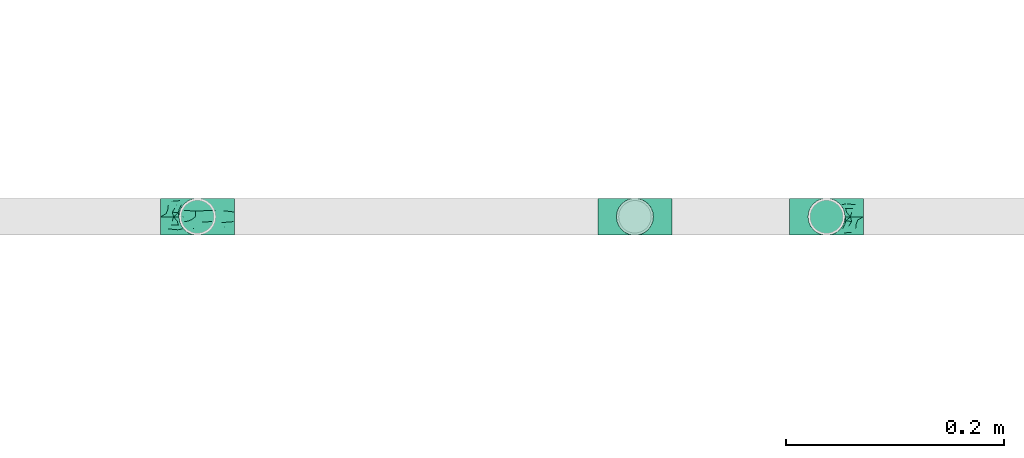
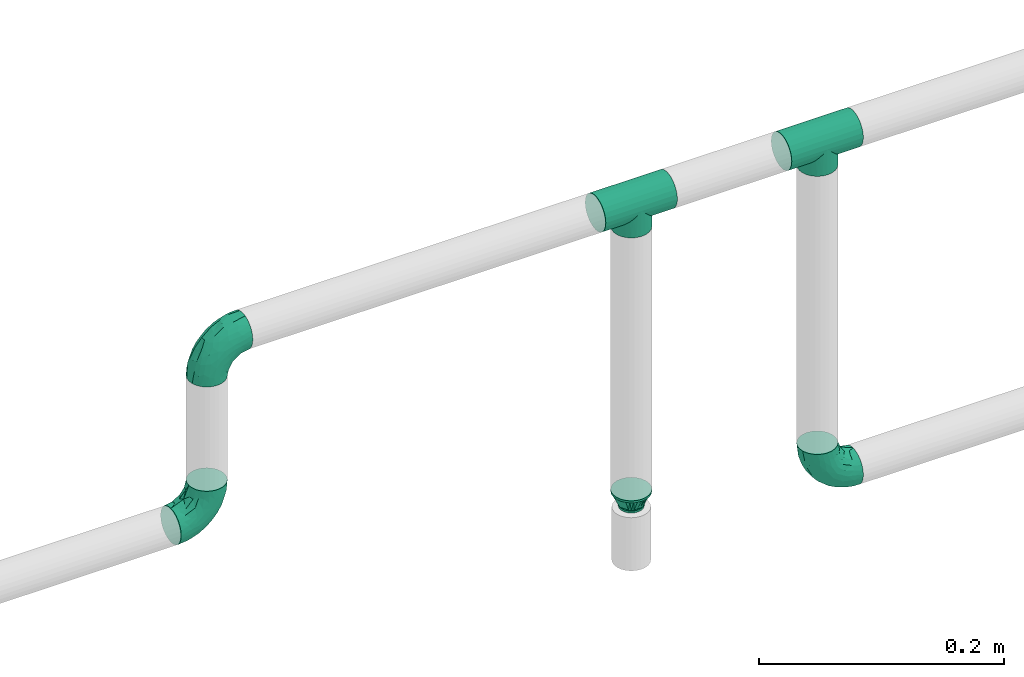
# One storey, part 25 of 45: 6 flow fittings.
"""IFC2X3 building model written with IfcOpenShell, lengths in millimetres."""

from ifc_helpers import new_model, entity, si_unit, converted_unit, derived_unit, direction, frame, origin_with_axes, place, context, subcontext, project, spatial, open_shell, surface_model, source, transform, mapped, type_object, element, save


model = new_model("IFC2X3")

# Units and contexts
model_context = context("Model", 3, precision=0.01, world=frame((0.0, 4.29681676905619e-09, 0.0)), true_north=direction((4.01073788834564e-13, 1.0)))
plan_context = context("Plan", 3, precision=0.01, world=frame((0.0, 4.29681676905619e-09, 0.0)), true_north=direction((4.01073788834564e-13, 1.0)))
body_context = subcontext(model_context, "Body", "Model", "MODEL_VIEW")
ifc_project = project(units=[converted_unit("PLANEANGLEUNIT", "DEGREE", entity("IfcPositiveLengthMeasure", 0.0174532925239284), si_unit("PLANEANGLEUNIT", "RADIAN"), dimensions=[0, 0, 0, 0, 0, 0, 0]), si_unit("AREAUNIT", "SQUARE_METRE"), si_unit("LENGTHUNIT", "METRE", prefix="MILLI"), si_unit("MASSUNIT", "GRAM", prefix="KILO"), si_unit("POWERUNIT", "WATT"), si_unit("PRESSUREUNIT", "PASCAL", prefix="KILO"), si_unit("FORCEUNIT", "NEWTON", prefix="KILO"), si_unit("ELECTRICVOLTAGEUNIT", "VOLT"), si_unit("ELECTRICCURRENTUNIT", "AMPERE"), si_unit("THERMODYNAMICTEMPERATUREUNIT", "DEGREE_CELSIUS"), si_unit("TIMEUNIT", "SECOND"), si_unit("VOLUMEUNIT", "CUBIC_METRE"), derived_unit("LINEARVELOCITYUNIT", [(si_unit("LENGTHUNIT", "METRE"), 1), (si_unit("TIMEUNIT", "SECOND"), -1)]), derived_unit("VOLUMETRICFLOWRATEUNIT", [(si_unit("VOLUMEUNIT", "CUBIC_METRE"), 1), (si_unit("TIMEUNIT", "SECOND"), -1)]), derived_unit("THERMALTRANSMITTANCEUNIT", [(si_unit("POWERUNIT", "WATT"), 1), (si_unit("THERMODYNAMICTEMPERATUREUNIT", "KELVIN"), -1), (si_unit("AREAUNIT", "SQUARE_METRE"), -1)]), derived_unit("SOUNDPRESSUREUNIT", [(si_unit("PRESSUREUNIT", "PASCAL"), 1)])], contexts=[model_context, plan_context])

# Site, building, storey
site_placement = place(None, frame((0.0, -4.29681676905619e-09, 0.0), z_axis=(0.0, 0.0, 1.0), x_axis=(1.0, 0.0, 0.0)))
site = spatial("IfcSite", under=ifc_project, at=site_placement, CompositionType="ELEMENT")
building_placement = place(site_placement, frame((0.0, 4.29681676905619e-09, 0.0), z_axis=(0.0, 0.0, 1.0), x_axis=(1.0, 0.0, 0.0)))
building = spatial("IfcBuilding", under=site, at=building_placement, Name="mc-building", CompositionType="ELEMENT")
storey_placement = place(building_placement, frame((0.0, 0.0, 210200.0), z_axis=(0.0, 0.0, 1.0), x_axis=(1.0, 0.0, 0.0)))
storey = spatial("IfcBuildingStorey", under=building, at=storey_placement, Name="Nivå F - 0,7 m", CompositionType="ELEMENT", Elevation=210200.0)

# Flow fittings
pipe_fitting_type_1 = type_object("IfcPipeFittingType", Name="magi_pipe_fe_elbow_short_001", PredefinedType="BEND")
shared_shape_1 = source(origin_with_axes(), body_context, "Body", "SurfaceModel", [
    surface_model("IfcShellBasedSurfaceModel", [(-33.8, -11.9501, -11.9501), (-33.8, -14.63583, -8.45), (-33.8, -8.45, -14.63583), (-33.8, 0.0, -16.9), (-33.8, -4.37404, -16.32415), (-33.8, -16.32415, -4.37404), (-33.8, -16.9, 0.0), (-33.8, 11.9501, 11.9501), (-33.8, 14.63583, 8.45), (-33.8, 8.45, 14.63583), (-33.8, -11.9501, 11.9501), (-33.8, -8.45, 14.63583), (-33.8, -14.63583, 8.45), (-33.8, -16.32415, 4.37404), (-33.8, -4.37404, 16.32415), (-33.8, 0.0, 16.9), (-33.8, 16.9, 0.0), (-33.8, 16.32415, -4.37404), (-33.8, 16.32415, 4.37404), (-33.8, 4.37404, -16.32415), (-33.8, 8.45, -14.63583), (-33.8, 14.63583, -8.45), (-33.8, 11.9501, -11.9501), (-33.8, 4.37404, 16.32415), (-4.37404, 33.8, -16.32415), (16.9, 33.8, 0.0), (0.0, 33.8, -16.9), (-16.32415, 33.8, -4.37404), (-8.45, 33.8, -14.63583), (-14.63583, 33.8, -8.45), (-11.9501, 33.8, -11.9501), (16.32415, 33.8, 4.37404), (8.45, 33.8, -14.63583), (14.63583, 33.8, -8.45), (11.9501, 33.8, -11.9501), (4.37404, 33.8, -16.32415), (16.32415, 33.8, -4.37404), (-16.32415, 33.8, 4.37404), (-4.37404, 33.8, 16.32415), (-14.63583, 33.8, 8.45), (-8.45, 33.8, 14.63583), (-11.9501, 33.8, 11.9501), (14.63583, 33.8, 8.45), (8.45, 33.8, 14.63583), (11.9501, 33.8, 11.9501), (0.0, 33.8, 16.9), (4.37404, 33.8, 16.32415), (-16.9, 33.8, 0.0), (-24.79389, -13.12945, 9.48721), (-22.19287, -9.75018, 12.59315), (-24.09897, -14.97035, 0.0), (-14.93934, -10.76256, 8.5297), (-22.46095, -14.75051, 5.27077), (14.75051, 22.46094, 5.27077), (11.9251, 13.23888, 4.33236), (13.04069, 14.39795, 0.0), (7.71387, 13.68847, 11.55891), (9.75018, 22.19287, 12.59315), (4.10169, 13.0571, 14.04018), (-24.84007, -6.39063, 15.2048), (-25.81779, -2.23879, 16.61097), (-23.66549, 2.59054, 16.87119), (-26.50418, 14.06512, 11.08152), (-24.21253, 17.66365, 7.72657), (-29.58514, 15.86957, 7.00283), (-6.17382, -7.5455, 0.0), (-13.23888, -11.9251, 4.33236), (-14.39795, -13.04069, 0.0), (-17.81434, 18.87373, 11.97104), (-6.30846, 29.15138, 15.82987), (-2.31622, 25.28002, 16.85849), (-29.23923, 10.23435, 13.77053), (-1.45439, -2.85688, 7.61475), (-0.28326, 0.34872, 10.09509), (-5.74484, -4.04709, 10.4122), (-4.41137, 11.31918, 16.59407), (-8.39727, 3.10034, 15.7812), (-1.72649, 9.1306, 15.53089), (-17.39909, 24.75344, 7.64977), (-26.19233, 20.0512, 0.0), (-28.14518, 17.29657, 4.25857), (-26.05147, 6.6281, 15.96447), (-5.87354, 16.61944, 16.86968), (-12.51807, 12.51807, 16.48937), (-10.06312, 7.38516, 16.81295), (-3.01882, 3.01882, 13.81718), (-13.0571, -4.10169, 14.04018), (-16.82553, -0.15166, 16.38038), (10.76256, 14.93934, 8.5297), (13.12945, 24.79389, 9.48721), (6.39063, 24.84007, 15.2048), (2.23879, 25.81779, 16.61097), (-13.68847, -7.71387, 11.55891), (14.97035, 24.09897, 0.0), (-7.30894, 22.89991, 16.09489), (-10.67958, 26.17414, 14.008), (-12.78295, 18.26924, 15.06066), (-13.88562, 22.45231, 12.93244), (-18.04944, 15.16501, 14.04434), (-23.11658, 20.08178, 4.02986), (-21.84989, 21.84989, 0.0), (-18.55817, 25.48277, 3.93065), (-13.95142, 26.94732, 11.03289), (-18.57098, 7.23906, 16.59756), (-16.58335, 4.14122, 16.89279), (-17.96666, 11.46709, 15.63151), (-9.84453, 17.54304, 16.18938), (0.15166, 16.82553, 16.38038), (-23.27207, 11.47201, 14.23154), (3.84842, 5.86994, 10.70473), (-8.0212, -7.54413, 7.93275), (1.00345, -2.19508, 4.57414), (5.13203, 3.01004, 5.90201), (5.24161, 1.7543, 2.53265), (8.70457, 7.04947, 3.99182), (-20.0512, 26.19233, 0.0), (8.4852, 8.76699, 7.09296), (-4.55488, -6.72064, 4.90681), (2.05031, -2.05031, 0.0), (7.5455, 6.17382, 0.0), (-26.75399, 2.1369, -16.845), (-14.61995, 24.73803, -11.27736), (-28.45274, -13.45335, -9.81895), (-26.00469, 6.63555, -15.96645), (-23.06726, 20.04573, -4.26202), (-13.80647, -4.26506, -14.17873), (-14.67501, -0.21081, -16.07388), (-6.7902, -0.2828, -13.8478), (-24.53586, 11.08096, -14.13417), (-26.72048, 14.00837, -11.05776), (10.0967, 24.44989, -12.75976), (5.83237, 21.40218, -15.03047), (6.66249, 28.54238, -15.38093), (-20.38182, 15.48705, -12.74596), (12.53268, 21.23441, -9.15363), (12.54494, 15.67504, -5.54878), (9.7522, 12.89279, -8.66343), (-15.65186, 19.64213, -13.01327), (-12.03528, 20.66498, -14.67665), (-15.61907, 15.61906, -14.83879), (-25.56551, -15.26206, 0.0), (-24.65452, -15.12934, -5.50955), (13.45335, 28.45274, -9.81895), (15.12934, 24.65452, -5.50955), (-7.35442, -8.31014, -5.65563), (-15.67504, -12.54494, -5.54878), (-24.44989, -10.0967, -12.75976), (0.16522, 0.41303, -9.71728), (-5.70658, -5.33066, -8.89288), (-5.13869, -2.37198, -11.53565), (-21.23441, -12.53268, -9.15363), (0.71146, 7.93863, -14.09382), (0.21081, 14.67501, -16.07388), (3.49291, 14.42772, -14.76381), (-24.89911, -2.13088, -16.591), (-28.54238, -6.66249, -15.38093), (-18.44386, -7.71663, -13.26957), (2.13088, 24.89911, -16.591), (-28.64342, 17.44413, -2.89318), (1.70017, -1.28722, -5.09504), (-16.57067, 26.81947, -7.36596), (-17.69055, 27.4263, -3.76405), (-12.89279, -9.7522, -8.66343), (-5.96611, 5.96611, -15.95814), (-20.53709, 20.09345, -8.28985), (-2.1369, 26.75399, -16.845), (-6.89872, 24.58781, -16.02578), (-10.60739, 26.53157, -13.98044), (-21.40218, -5.83237, -15.03047), (2.93192, 5.89627, -11.55917), (6.89393, 12.61842, -11.82233), (5.58056, 5.95325, -8.79455), (-3.99512, 18.61798, -16.89635), (8.31014, 7.35442, -5.65563), (-9.1383, 9.86148, -16.89041), (-9.99983, 16.02119, -16.39699), (-16.68576, 9.78031, -16.34199), (-27.01915, 16.61158, -7.12979), (15.26206, 25.56551, 0.0), (-18.61798, 3.99512, -16.89635), (-19.37495, 27.82495, 0.0), (-12.61842, -6.89393, -11.82233), (-18.84705, 19.14018, -10.96545)], [open_shell([[[0, 1, 2]], [[3, 4, 2]], [[5, 6, 1]], [[7, 8, 9]], [[10, 11, 12]], [[13, 12, 11]], [[14, 15, 11]], [[16, 17, 18]], [[3, 6, 19]], [[20, 19, 17]], [[20, 17, 21]], [[22, 20, 21]], [[17, 19, 6]], [[2, 1, 6]], [[2, 6, 3]], [[6, 18, 17]], [[23, 18, 6]], [[8, 18, 23]], [[8, 23, 9]], [[13, 23, 6]], [[23, 13, 11]], [[11, 15, 23]], [[24, 25, 26]], [[27, 24, 28]], [[29, 27, 28]], [[29, 28, 30]], [[31, 25, 24]], [[32, 33, 34]], [[32, 35, 26]], [[33, 25, 36]], [[33, 32, 26]], [[25, 33, 26]], [[24, 27, 37]], [[31, 24, 37]], [[38, 37, 39]], [[40, 38, 39]], [[40, 39, 41]], [[31, 37, 38]], [[42, 43, 44]], [[43, 42, 31]], [[43, 45, 46]], [[43, 31, 38]], [[38, 45, 43]], [[37, 27, 47]], [[10, 48, 49]], [[13, 6, 50]], [[51, 48, 52]], [[53, 54, 55]], [[48, 10, 12]], [[13, 52, 12]], [[56, 57, 58]], [[49, 11, 10]], [[49, 59, 11]], [[15, 60, 61]], [[62, 63, 64]], [[65, 66, 67]], [[57, 44, 43]], [[62, 68, 63]], [[38, 69, 70]], [[9, 71, 7]], [[14, 60, 15]], [[72, 73, 74]], [[75, 76, 77]], [[7, 62, 8]], [[39, 37, 78]], [[79, 16, 80]], [[64, 18, 8]], [[15, 61, 23]], [[23, 81, 9]], [[82, 83, 84]], [[74, 85, 86]], [[59, 86, 87]], [[88, 89, 57]], [[90, 43, 46]], [[42, 53, 31]], [[46, 45, 91]], [[54, 53, 88]], [[42, 89, 53]], [[92, 86, 49]], [[89, 42, 44]], [[11, 59, 14]], [[53, 55, 93]], [[93, 31, 53]], [[66, 52, 67]], [[94, 82, 70]], [[95, 96, 94]], [[97, 98, 96]], [[79, 99, 100]], [[40, 41, 95]], [[101, 100, 99]], [[68, 78, 63]], [[38, 40, 69]], [[16, 18, 80]], [[95, 94, 69]], [[78, 101, 99]], [[41, 102, 95]], [[70, 45, 38]], [[97, 95, 102]], [[13, 50, 52]], [[90, 57, 43]], [[57, 90, 58]], [[81, 23, 61]], [[103, 104, 84]], [[105, 81, 103]], [[41, 39, 102]], [[106, 96, 83]], [[94, 106, 82]], [[91, 70, 107]], [[71, 62, 7]], [[62, 108, 98]], [[86, 59, 49]], [[67, 52, 50]], [[60, 59, 87]], [[92, 49, 51]], [[86, 85, 76]], [[91, 90, 46]], [[25, 31, 93]], [[107, 77, 58]], [[107, 58, 90]], [[58, 85, 109]], [[110, 74, 92]], [[72, 74, 110]], [[66, 51, 52]], [[72, 111, 112]], [[113, 114, 112]], [[56, 88, 57]], [[52, 48, 12]], [[49, 48, 51]], [[57, 89, 44]], [[53, 89, 88]], [[103, 81, 61]], [[71, 81, 108]], [[18, 64, 80]], [[63, 78, 99]], [[47, 115, 101]], [[101, 115, 100]], [[39, 78, 102]], [[68, 102, 78]], [[97, 96, 95]], [[105, 98, 108]], [[103, 84, 83]], [[107, 70, 82]], [[76, 84, 87]], [[82, 84, 75]], [[70, 91, 45]], [[90, 91, 107]], [[59, 60, 14]], [[61, 60, 87]], [[73, 85, 74]], [[109, 112, 116]], [[103, 61, 104]], [[105, 103, 83]], [[96, 105, 83]], [[81, 105, 108]], [[96, 98, 105]], [[62, 98, 68]], [[61, 87, 104]], [[87, 84, 104]], [[86, 76, 87]], [[77, 76, 85]], [[58, 77, 85]], [[75, 77, 107]], [[82, 75, 107]], [[76, 75, 84]], [[81, 71, 9]], [[62, 71, 108]], [[95, 69, 40]], [[70, 69, 94]], [[62, 64, 8]], [[80, 63, 99]], [[63, 80, 64]], [[80, 99, 79]], [[66, 65, 117]], [[110, 66, 117]], [[112, 114, 116]], [[118, 117, 65]], [[110, 92, 51]], [[112, 111, 113]], [[119, 55, 54]], [[74, 86, 92]], [[58, 109, 56]], [[116, 56, 109]], [[66, 110, 51]], [[72, 110, 117]], [[111, 72, 117]], [[73, 112, 109]], [[117, 118, 111]], [[113, 111, 118]], [[118, 119, 113]], [[114, 119, 54]], [[119, 114, 113]], [[116, 54, 88]], [[54, 116, 114]], [[116, 88, 56]], [[112, 73, 72]], [[85, 73, 109]], [[78, 37, 101]], [[47, 101, 37]], [[102, 68, 97]], [[97, 68, 98]], [[82, 106, 83]], [[94, 96, 106]], [[19, 120, 3]], [[29, 30, 121]], [[0, 122, 1]], [[20, 123, 19]], [[100, 124, 79]], [[125, 126, 127]], [[128, 22, 129]], [[130, 131, 132]], [[128, 129, 133]], [[134, 135, 136]], [[137, 138, 139]], [[128, 20, 22]], [[67, 140, 141]], [[134, 142, 143]], [[141, 5, 1]], [[144, 65, 145]], [[146, 0, 2]], [[147, 148, 149]], [[145, 141, 150]], [[151, 152, 153]], [[154, 4, 3]], [[2, 155, 146]], [[150, 146, 156]], [[155, 2, 4]], [[143, 135, 134]], [[35, 157, 26]], [[16, 79, 158]], [[148, 159, 144]], [[160, 161, 27]], [[145, 162, 144]], [[163, 152, 151]], [[27, 29, 160]], [[121, 164, 160]], [[32, 34, 130]], [[26, 165, 24]], [[24, 165, 166]], [[142, 34, 33]], [[30, 28, 167]], [[124, 161, 164]], [[157, 35, 132]], [[155, 154, 168]], [[123, 20, 128]], [[169, 170, 171]], [[172, 157, 152]], [[24, 166, 28]], [[132, 35, 32]], [[142, 130, 34]], [[168, 154, 126]], [[136, 135, 173]], [[133, 137, 139]], [[22, 21, 129]], [[170, 131, 130]], [[33, 36, 143]], [[172, 174, 175]], [[176, 123, 128]], [[158, 177, 17]], [[135, 55, 119]], [[167, 28, 166]], [[175, 166, 172]], [[137, 167, 138]], [[122, 141, 1]], [[140, 6, 5]], [[36, 25, 178]], [[170, 130, 134]], [[152, 157, 131]], [[165, 157, 172]], [[153, 170, 151]], [[152, 163, 174]], [[168, 125, 156]], [[122, 146, 150]], [[120, 154, 3]], [[179, 174, 126]], [[179, 126, 154]], [[126, 163, 127]], [[162, 145, 150]], [[140, 5, 141]], [[36, 178, 143]], [[55, 143, 178]], [[177, 129, 21]], [[128, 133, 139]], [[176, 128, 139]], [[120, 123, 179]], [[121, 160, 29]], [[161, 100, 180]], [[166, 175, 138]], [[121, 30, 167]], [[161, 47, 27]], [[79, 124, 158]], [[124, 164, 177]], [[161, 124, 100]], [[136, 171, 170]], [[127, 163, 151]], [[147, 171, 159]], [[148, 144, 162]], [[127, 151, 169]], [[127, 181, 125]], [[129, 177, 164]], [[21, 17, 177]], [[159, 65, 144]], [[67, 141, 145]], [[143, 55, 135]], [[135, 119, 173]], [[123, 120, 19]], [[154, 120, 179]], [[157, 165, 26]], [[166, 165, 172]], [[172, 152, 174]], [[176, 139, 175]], [[126, 174, 163]], [[176, 174, 179]], [[174, 176, 175]], [[123, 176, 179]], [[150, 181, 162]], [[127, 149, 181]], [[181, 148, 162]], [[159, 148, 147]], [[171, 136, 173]], [[170, 134, 136]], [[159, 171, 173]], [[171, 147, 169]], [[169, 147, 149]], [[151, 170, 169]], [[164, 182, 129]], [[182, 121, 137]], [[181, 149, 148]], [[169, 149, 127]], [[182, 137, 133]], [[167, 137, 121]], [[166, 138, 167]], [[175, 139, 138]], [[129, 182, 133]], [[121, 182, 164]], [[161, 160, 164]], [[47, 161, 180]], [[177, 158, 124]], [[16, 158, 17]], [[130, 132, 32]], [[157, 132, 131]], [[143, 142, 33]], [[130, 142, 134]], [[154, 155, 4]], [[146, 155, 168]], [[146, 122, 0]], [[141, 122, 150]], [[152, 131, 153]], [[159, 119, 118]], [[67, 145, 65]], [[170, 153, 131]], [[119, 159, 173]], [[159, 118, 65]], [[156, 125, 181]], [[126, 125, 168]], [[150, 156, 181]], [[168, 156, 146]]])]),
])
for number, where, z_axis, x_axis, name in (
    (1, (332126.35522, 466128.25463, 3145.0), (0.0, -1.0, 0.0), (1.0, 0.0, 0.0), "magi_pipe_fe_elbow_short_001"),
    (2, (332126.35522, 466128.25463, 3316.68979999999), (0.0, -1.0, 0.0), (-1.0, 0.0, 0.0), "magi_pipe_fe_elbow_short_001"),
    (3, (332702.59811, 466128.25463, 2980.04545999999), (0.0, 1.0, 0.0), (-1.0, 0.0, 0.0), "magi_pipe_fe_elbow_short_001"),
):
    element("IfcFlowFitting", number, at=place(storey_placement, frame(where, z_axis=z_axis, x_axis=x_axis)), inside=storey, type_object=pipe_fitting_type_1, Name=name, context=body_context, shape_type="MappedRepresentation", body=[
        mapped(shared_shape_1, transform((0.0, 0.0, 0.0), scale=1.0)),
    ])
pipe_fitting_type_2 = type_object("IfcPipeFittingType", Name="magi_pipe_fe_tee_centric_90_001", PredefinedType="JUNCTION")
shared_shape_2 = source(origin_with_axes(), body_context, "Body", "SurfaceModel", [
    surface_model("IfcShellBasedSurfaceModel", [(-33.8, 4.37404, -16.32415), (-33.8, 0.0, -16.9), (-33.8, 16.32415, -4.37404), (-33.8, 8.45, -14.63583), (-33.8, 11.9501, -11.9501), (-33.8, 14.63583, -8.45), (-33.8, -16.9, 0.0), (-33.8, -11.9501, -11.9501), (-33.8, -14.63583, -8.45), (-33.8, -8.45, -14.63583), (-33.8, -4.37404, -16.32415), (-33.8, -16.32415, -4.37404), (-33.8, 14.63583, 8.45), (-33.8, 16.32415, 4.37404), (-33.8, -8.45, 14.63583), (-33.8, 8.45, 14.63583), (-33.8, 11.9501, 11.9501), (-33.8, 4.37404, 16.32415), (-33.8, 0.0, 16.9), (-33.8, -11.9501, 11.9501), (-33.8, -14.63583, 8.45), (-33.8, -16.32415, 4.37404), (-33.8, -4.37404, 16.32415), (-33.8, 16.9, 0.0), (33.8, 4.37404, -16.32415), (33.8, -16.9, 0.0), (33.8, 0.0, -16.9), (33.8, 14.63583, -8.45), (33.8, 8.45, -14.63583), (33.8, 16.32415, -4.37404), (33.8, 11.9501, -11.9501), (33.8, -16.32415, 4.37404), (33.8, -8.45, -14.63583), (33.8, -4.37404, -16.32415), (33.8, -11.9501, -11.9501), (33.8, -14.63583, -8.45), (33.8, -16.32415, -4.37404), (33.8, 16.32415, 4.37404), (33.8, 8.45, 14.63583), (33.8, 14.63583, 8.45), (33.8, 11.9501, 11.9501), (33.8, -8.45, 14.63583), (33.8, 4.37404, 16.32415), (33.8, -14.63583, 8.45), (33.8, -11.9501, 11.9501), (33.8, 0.0, 16.9), (33.8, -4.37404, 16.32415), (33.8, 16.9, 0.0), (16.28698, -16.28698, 4.51047), (16.9, -16.9, 0.0), (14.62704, -14.62704, 8.4652), (9.47213, -9.47213, 13.99602), (12.26343, -12.26343, 11.62834), (-16.9, -16.9, 0.0), (-16.28698, -16.28698, 4.51047), (-14.62704, -14.62704, 8.4652), (-12.26343, -12.26343, 11.62834), (-9.47213, -9.47213, 13.99602), (-6.42894, -6.42894, 15.62942), (6.42894, -6.42894, 15.62942), (3.24522, -3.24522, 16.58549), (0.0, 0.0, 16.9), (-3.24522, -3.24522, 16.58549), (3.24522, -3.24522, -16.58549), (0.0, 0.0, -16.9), (-3.24522, -3.24522, -16.58549), (-6.42894, -6.42894, -15.62942), (6.42894, -6.42894, -15.62942), (9.47213, -9.47213, -13.99602), (12.26343, -12.26343, -11.62834), (14.62704, -14.62704, -8.4652), (16.28698, -16.28698, -4.51047), (-9.47213, -9.47213, -13.99602), (-12.26343, -12.26343, -11.62834), (-16.28698, -16.28698, -4.51047), (-14.62704, -14.62704, -8.4652), (4.37404, -25.35, -16.32415), (-16.9, -25.35, 0.0), (0.0, -25.35, -16.9), (14.63583, -25.35, -8.45), (8.45, -25.35, -14.63583), (16.32415, -25.35, -4.37404), (11.9501, -25.35, -11.9501), (-11.9501, -25.35, -11.9501), (-8.45, -25.35, -14.63583), (-4.37404, -25.35, -16.32415), (-14.63583, -25.35, -8.45), (-16.32415, -25.35, -4.37404), (16.9, -25.35, 0.0), (8.45, -25.35, 14.63583), (16.32415, -25.35, 4.37404), (14.63583, -25.35, 8.45), (-8.45, -25.35, 14.63583), (11.9501, -25.35, 11.9501), (4.37404, -25.35, 16.32415), (-16.32415, -25.35, 4.37404), (-11.9501, -25.35, 11.9501), (-14.63583, -25.35, 8.45), (0.0, -25.35, 16.9), (-4.37404, -25.35, 16.32415)], [open_shell([[[0, 1, 2]], [[3, 0, 4]], [[0, 2, 5]], [[4, 0, 5]], [[6, 2, 1]], [[7, 8, 9]], [[1, 10, 9]], [[11, 6, 8]], [[1, 9, 8]], [[1, 8, 6]], [[6, 12, 2]], [[12, 13, 2]], [[14, 12, 6]], [[12, 14, 15]], [[16, 12, 15]], [[17, 15, 18]], [[19, 14, 20]], [[21, 20, 14]], [[22, 18, 14]], [[14, 6, 21]], [[14, 18, 15]], [[23, 2, 13]], [[24, 25, 26]], [[27, 24, 28]], [[27, 29, 24]], [[27, 28, 30]], [[31, 25, 24]], [[26, 32, 33]], [[26, 34, 32]], [[35, 25, 36]], [[35, 34, 26]], [[25, 35, 26]], [[24, 29, 31]], [[29, 37, 38]], [[38, 37, 39]], [[38, 31, 29]], [[38, 39, 40]], [[41, 38, 42]], [[43, 41, 44]], [[41, 43, 31]], [[41, 45, 46]], [[41, 31, 38]], [[42, 45, 41]], [[29, 47, 37]], [[31, 43, 48]], [[25, 31, 49]], [[49, 31, 48]], [[43, 50, 48]], [[44, 41, 51]], [[50, 43, 52]], [[51, 52, 44]], [[52, 43, 44]], [[53, 54, 21]], [[53, 21, 6]], [[21, 54, 20]], [[54, 55, 20]], [[56, 57, 19]], [[19, 20, 56]], [[19, 57, 14]], [[56, 20, 55]], [[14, 57, 58]], [[51, 41, 59]], [[60, 45, 61]], [[59, 46, 60]], [[46, 59, 41]], [[60, 46, 45]], [[61, 45, 42]], [[39, 37, 13]], [[16, 38, 40]], [[12, 40, 39]], [[42, 38, 15]], [[23, 37, 47]], [[62, 61, 18]], [[62, 22, 58]], [[22, 62, 18]], [[58, 22, 14]], [[61, 17, 18]], [[42, 17, 61]], [[15, 17, 42]], [[15, 38, 16]], [[12, 16, 40]], [[13, 12, 39]], [[37, 23, 13]], [[5, 27, 30]], [[23, 47, 29]], [[30, 28, 3]], [[27, 2, 29]], [[26, 33, 63]], [[26, 64, 24]], [[64, 26, 63]], [[28, 24, 0]], [[64, 0, 24]], [[4, 30, 3]], [[2, 27, 5]], [[5, 30, 4]], [[2, 23, 29]], [[65, 66, 10]], [[1, 0, 64]], [[1, 65, 10]], [[66, 9, 10]], [[0, 3, 28]], [[1, 64, 65]], [[63, 33, 67]], [[32, 34, 68]], [[69, 68, 34]], [[35, 70, 69]], [[69, 34, 35]], [[32, 68, 67]], [[36, 25, 49]], [[36, 71, 35]], [[71, 36, 49]], [[35, 71, 70]], [[72, 9, 66]], [[72, 7, 9]], [[7, 72, 73]], [[7, 73, 8]], [[74, 53, 11]], [[75, 74, 8]], [[74, 11, 8]], [[11, 53, 6]], [[75, 8, 73]], [[32, 67, 33]], [[76, 77, 78]], [[79, 76, 80]], [[79, 81, 76]], [[79, 80, 82]], [[77, 76, 81]], [[78, 83, 84]], [[84, 85, 78]], [[86, 77, 87]], [[83, 78, 86]], [[77, 86, 78]], [[81, 88, 77]], [[89, 88, 90]], [[89, 90, 91]], [[92, 77, 89]], [[89, 91, 93]], [[92, 89, 94]], [[95, 96, 97]], [[96, 95, 92]], [[92, 98, 99]], [[95, 77, 92]], [[94, 98, 92]], [[89, 77, 88]], [[77, 95, 53]], [[54, 53, 95]], [[97, 96, 56]], [[96, 92, 57]], [[95, 97, 54]], [[58, 92, 99]], [[55, 54, 97]], [[56, 55, 97]], [[58, 57, 92]], [[98, 61, 62]], [[58, 99, 62]], [[56, 96, 57]], [[62, 99, 98]], [[94, 60, 98]], [[89, 59, 94]], [[91, 90, 48]], [[52, 93, 91]], [[93, 51, 89]], [[49, 90, 88]], [[59, 60, 94]], [[51, 59, 89]], [[49, 48, 90]], [[50, 52, 91]], [[48, 50, 91]], [[51, 93, 52]], [[98, 60, 61]], [[88, 81, 49]], [[71, 49, 81]], [[79, 82, 69]], [[82, 80, 68]], [[81, 79, 71]], [[67, 80, 76]], [[70, 71, 79]], [[69, 70, 79]], [[67, 68, 80]], [[78, 64, 63]], [[67, 76, 63]], [[69, 82, 68]], [[63, 76, 78]], [[85, 65, 78]], [[84, 66, 85]], [[86, 87, 74]], [[86, 73, 83]], [[72, 84, 83]], [[53, 87, 77]], [[66, 65, 85]], [[72, 66, 84]], [[53, 74, 87]], [[75, 73, 86]], [[74, 75, 86]], [[72, 83, 73]], [[78, 65, 64]]])]),
])
for number, where, z_axis, x_axis, name in (
    (4, (332527.06484, 466128.25463, 3316.68979999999), (0.0, -1.0, 0.0), (1.0, 0.0, 0.0), "magi_pipe_fe_tee_centric_90_001"),
    (5, (332702.59811, 466128.25463, 3316.68979999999), (0.0, -1.0, 0.0), (1.0, 0.0, 0.0), "magi_pipe_fe_tee_centric_90_001"),
):
    element("IfcFlowFitting", number, at=place(storey_placement, frame(where, z_axis=z_axis, x_axis=x_axis)), inside=storey, type_object=pipe_fitting_type_2, Name=name, context=body_context, shape_type="MappedRepresentation", body=[
        mapped(shared_shape_2, transform((0.0, 0.0, 0.0), scale=1.0)),
    ])
pipe_fitting_type_3 = type_object("IfcPipeFittingType", Name="magi_pipe_fe_reducer_centric_short_001", PredefinedType="TRANSITION")
shared_shape_3 = source(origin_with_axes(), body_context, "Body", "SurfaceModel", [
    surface_model("IfcShellBasedSurfaceModel", [(-2.0, 11.9501, 11.9501), (-2.0, 0.0, 16.9), (-2.0, 4.37404, 16.32415), (-2.0, 8.45, 14.63583), (-2.0, 14.63583, 8.45), (-2.0, 16.32415, 4.37404), (-2.0, -16.32415, 4.37404), (-2.0, -8.45, 14.63583), (-2.0, -14.63583, 8.45), (-2.0, -11.9501, 11.9501), (-2.0, -4.37404, 16.32415), (-2.0, -16.32415, -4.37404), (-2.0, -16.9, 0.0), (-2.0, -8.45, -14.63583), (-2.0, 16.32415, -4.37404), (-2.0, 11.9501, -11.9501), (-2.0, 14.63583, -8.45), (-2.0, 8.45, -14.63583), (-2.0, 4.37404, -16.32415), (-2.0, 0.0, -16.9), (-2.0, -11.9501, -11.9501), (-2.0, -14.63583, -8.45), (-2.0, -4.37404, -16.32415), (-2.0, 16.9, 0.0), (0.0, 4.37404, -16.32415), (0.0, 8.45, -14.63583), (0.0, 11.9501, -11.9501), (0.0, 0.0, -16.9), (0.0, 16.32415, -4.37404), (0.0, 16.32415, 4.37404), (0.0, 14.63583, -8.45), (0.0, -8.45, -14.63583), (0.0, -4.37404, -16.32415), (0.0, -11.9501, -11.9501), (0.0, -16.32415, -4.37404), (0.0, -14.63583, -8.45), (0.0, -16.32415, 4.37404), (0.0, 16.9, 0.0), (0.0, 14.63583, 8.45), (0.0, 11.9501, 11.9501), (0.0, 4.37404, 16.32415), (0.0, 8.45, 14.63583), (0.0, 0.0, 16.9), (0.0, -14.63583, 8.45), (0.0, -16.9, 0.0), (0.0, -8.45, 14.63583), (0.0, -11.9501, 11.9501), (0.0, -4.37404, 16.32415), (14.4, 5.35, -9.26647), (14.4, 0.0, -10.7), (14.4, 2.76936, -10.33541), (14.4, 10.33541, -2.76936), (14.4, 7.56604, -7.56604), (14.4, -5.35, -9.26647), (14.4, 9.26647, -5.35), (14.4, -9.26647, 5.35), (14.4, -2.76936, -10.33541), (14.4, -7.56604, -7.56604), (14.4, -10.33541, -2.76936), (14.4, -9.26647, -5.35), (14.4, 10.33541, 2.76936), (14.4, 10.7, 0.0), (14.4, 9.26647, 5.35), (14.4, 7.56604, 7.56604), (14.4, 2.76936, 10.33541), (14.4, 0.0, 10.7), (14.4, 5.35, 9.26647), (14.4, -10.33541, 2.76936), (14.4, -10.7, 0.0), (14.4, -7.56604, 7.56604), (14.4, -2.76936, 10.33541), (14.4, -5.35, 9.26647), (12.4, 0.0, 10.7), (12.4, 2.76936, 10.33541), (12.4, 5.35, 9.26647), (12.4, 7.56604, 7.56604), (12.4, 9.26647, 5.35), (12.4, 10.33541, 2.76936), (12.4, -10.33541, 2.76936), (12.4, 10.33541, -2.76936), (12.4, -2.76936, 10.33541), (12.4, -7.56604, 7.56604), (12.4, -5.35, 9.26647), (12.4, -9.26647, 5.35), (12.4, -10.33541, -2.76936), (12.4, -10.7, 0.0), (12.4, 2.76936, -10.33541), (12.4, 9.26647, -5.35), (12.4, 7.56604, -7.56604), (12.4, 5.35, -9.26647), (12.4, -7.56604, -7.56604), (12.4, -9.26647, -5.35), (12.4, -5.35, -9.26647), (12.4, 0.0, -10.7), (12.4, -2.76936, -10.33541), (12.4, 10.7, 0.0), (12.4, 9.3625, -2.31662), (0.0, 14.42505, -5.97505), (0.0, 15.66253, -2.98753), (12.4, -6.6875, -6.94985), (0.0, -13.18758, -8.96258), (0.0, 2.98753, -15.66253), (12.4, 0.0, -9.26647), (12.4, 6.6875, -6.94985), (0.0, 8.96258, -13.18758), (12.4, -9.3625, -2.31662), (0.0, -15.66253, -2.98753), (0.0, -14.42505, -5.97505), (0.0, 5.97505, -14.42505), (0.0, -2.98753, -15.66253), (0.0, -8.96258, -13.18758), (0.0, 13.18758, -8.96258), (12.4, 8.025, -4.63324), (12.4, -2.675, -9.26647), (12.4, 2.675, -9.26647), (0.0, -5.97505, -14.42505), (12.4, -8.025, -4.63324), (12.4, -9.3625, 2.31662), (0.0, -14.42505, 5.97505), (0.0, -15.66253, 2.98753), (12.4, 6.6875, 6.94985), (0.0, 13.18758, 8.96258), (0.0, -2.98753, 15.66253), (12.4, 0.0, 9.26647), (12.4, -6.6875, 6.94985), (0.0, -8.96258, 13.18758), (12.4, 9.3625, 2.31662), (0.0, 15.66253, 2.98753), (0.0, 14.42505, 5.97505), (0.0, -5.97505, 14.42505), (0.0, 2.98753, 15.66253), (0.0, 8.96258, 13.18758), (0.0, -13.18758, 8.96258), (12.4, -8.025, 4.63324), (12.4, 2.675, 9.26647), (12.4, -2.675, 9.26647), (0.0, 5.97505, 14.42505), (12.4, 8.025, 4.63324)], [open_shell([[[0, 1, 2]], [[0, 2, 3]], [[0, 4, 5]], [[0, 5, 1]], [[1, 5, 6]], [[7, 8, 9]], [[7, 10, 1]], [[8, 7, 1]], [[1, 6, 8]], [[6, 11, 12]], [[6, 5, 13]], [[5, 14, 15]], [[15, 14, 16]], [[15, 17, 18]], [[13, 5, 15]], [[19, 15, 18]], [[11, 20, 21]], [[20, 11, 13]], [[13, 19, 22]], [[11, 6, 13]], [[15, 19, 13]], [[5, 23, 14]], [[24, 25, 26]], [[27, 24, 26]], [[26, 28, 29]], [[28, 26, 30]], [[26, 29, 31]], [[27, 31, 32]], [[27, 26, 31]], [[33, 34, 35]], [[34, 33, 31]], [[31, 36, 34]], [[29, 28, 37]], [[29, 38, 39]], [[29, 39, 40]], [[40, 36, 31]], [[40, 39, 41]], [[36, 40, 42]], [[42, 43, 36]], [[44, 34, 36]], [[43, 45, 46]], [[43, 42, 45]], [[45, 42, 47]], [[31, 29, 40]], [[11, 34, 12]], [[21, 35, 11]], [[31, 20, 13]], [[21, 20, 33]], [[32, 13, 22]], [[11, 35, 34]], [[34, 44, 12]], [[32, 31, 13]], [[33, 20, 31]], [[33, 35, 21]], [[27, 32, 22]], [[22, 19, 27]], [[18, 24, 19]], [[17, 25, 18]], [[30, 15, 16]], [[17, 15, 26]], [[28, 16, 14]], [[17, 26, 25]], [[25, 24, 18]], [[37, 28, 14]], [[30, 16, 28]], [[30, 26, 15]], [[23, 37, 14]], [[19, 24, 27]], [[5, 29, 23]], [[4, 38, 5]], [[41, 0, 3]], [[4, 0, 39]], [[40, 3, 2]], [[5, 38, 29]], [[29, 37, 23]], [[40, 41, 3]], [[39, 0, 41]], [[39, 38, 4]], [[42, 40, 2]], [[2, 1, 42]], [[10, 47, 1]], [[7, 45, 10]], [[43, 9, 8]], [[7, 9, 46]], [[36, 8, 6]], [[7, 46, 45]], [[45, 47, 10]], [[44, 36, 6]], [[43, 8, 36]], [[43, 46, 9]], [[12, 44, 6]], [[1, 47, 42]], [[33, 44, 27]], [[48, 49, 50]], [[51, 48, 52]], [[53, 48, 51]], [[51, 52, 54]], [[55, 53, 51]], [[49, 53, 56]], [[49, 48, 53]], [[57, 58, 59]], [[58, 57, 53]], [[53, 55, 58]], [[60, 51, 61]], [[60, 62, 63]], [[51, 63, 55]], [[64, 65, 63]], [[64, 63, 66]], [[55, 63, 65]], [[58, 67, 68]], [[55, 67, 58]], [[69, 70, 71]], [[70, 69, 55]], [[65, 70, 55]], [[51, 60, 63]], [[72, 73, 74]], [[72, 74, 75]], [[75, 76, 77]], [[72, 75, 78]], [[79, 78, 75]], [[80, 81, 82]], [[81, 80, 78]], [[81, 78, 83]], [[80, 72, 78]], [[78, 84, 85]], [[79, 75, 77]], [[84, 78, 79]], [[86, 79, 87]], [[88, 89, 86]], [[88, 86, 87]], [[84, 79, 86]], [[84, 90, 91]], [[90, 84, 92]], [[92, 93, 94]], [[92, 84, 86]], [[86, 93, 92]], [[79, 77, 95]], [[84, 58, 85]], [[91, 59, 84]], [[53, 90, 92]], [[91, 90, 57]], [[56, 92, 94]], [[84, 59, 58]], [[58, 68, 85]], [[56, 53, 92]], [[57, 90, 53]], [[57, 59, 91]], [[49, 56, 94]], [[94, 93, 49]], [[86, 50, 93]], [[89, 48, 86]], [[54, 88, 87]], [[89, 88, 52]], [[51, 87, 79]], [[89, 52, 48]], [[48, 50, 86]], [[61, 51, 79]], [[54, 87, 51]], [[54, 52, 88]], [[95, 61, 79]], [[93, 50, 49]], [[77, 60, 95]], [[76, 62, 77]], [[66, 75, 74]], [[76, 75, 63]], [[64, 74, 73]], [[77, 62, 60]], [[60, 61, 95]], [[64, 66, 74]], [[63, 75, 66]], [[63, 62, 76]], [[65, 64, 73]], [[73, 72, 65]], [[80, 70, 72]], [[82, 71, 80]], [[55, 81, 83]], [[82, 81, 69]], [[67, 83, 78]], [[82, 69, 71]], [[71, 70, 80]], [[68, 67, 78]], [[55, 83, 67]], [[55, 69, 81]], [[85, 68, 78]], [[72, 70, 65]], [[74, 82, 95]], [[95, 82, 92]], [[92, 89, 95]], [[92, 82, 85]], [[42, 39, 44]], [[44, 46, 42]], [[39, 26, 44]], [[27, 44, 26]], [[26, 39, 37]], [[96, 97, 98]], [[33, 99, 100]], [[101, 102, 27]], [[98, 37, 95]], [[26, 103, 104]], [[104, 103, 89]], [[105, 106, 107]], [[89, 108, 104]], [[102, 109, 27]], [[110, 99, 33]], [[95, 96, 98]], [[103, 111, 112]], [[109, 102, 113]], [[85, 44, 106]], [[102, 101, 114]], [[110, 115, 92]], [[96, 112, 97]], [[107, 116, 105]], [[85, 106, 105]], [[113, 115, 109]], [[92, 115, 113]], [[116, 107, 100]], [[108, 89, 114]], [[111, 103, 26]], [[111, 97, 112]], [[99, 110, 92]], [[116, 100, 99]], [[101, 108, 114]], [[117, 118, 119]], [[39, 120, 121]], [[122, 123, 42]], [[119, 44, 85]], [[46, 124, 125]], [[125, 124, 82]], [[126, 127, 128]], [[82, 129, 125]], [[123, 130, 42]], [[131, 120, 39]], [[85, 117, 119]], [[124, 132, 133]], [[130, 123, 134]], [[95, 37, 127]], [[123, 122, 135]], [[131, 136, 74]], [[117, 133, 118]], [[128, 137, 126]], [[95, 127, 126]], [[134, 136, 130]], [[74, 136, 134]], [[137, 128, 121]], [[129, 82, 135]], [[132, 124, 46]], [[132, 118, 133]], [[120, 131, 74]], [[137, 121, 120]], [[122, 129, 135]]])]),
])
flow_fitting_placement = place(storey_placement, frame((332527.06484, 466128.25463, 3026.98910000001), z_axis=(0.0, -1.0, 0.0), x_axis=(0.0, 0.0, -1.0)))
element("IfcFlowFitting", 6, at=flow_fitting_placement, inside=storey, type_object=pipe_fitting_type_3, Name="magi_pipe_fe_reducer_centric_short_001", context=body_context, shape_type="MappedRepresentation", body=[
    mapped(shared_shape_3, transform((0.0, 0.0, 0.0), scale=1.0)),
])

save(model, "model.ifc")
